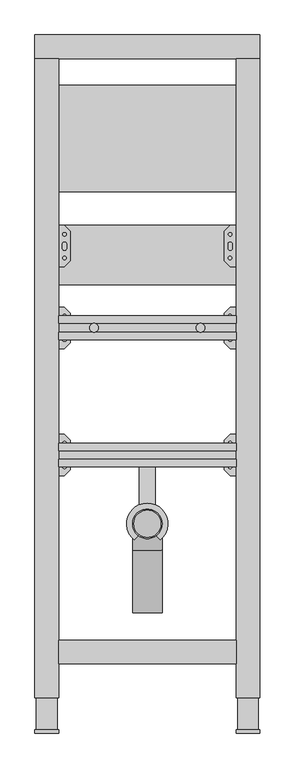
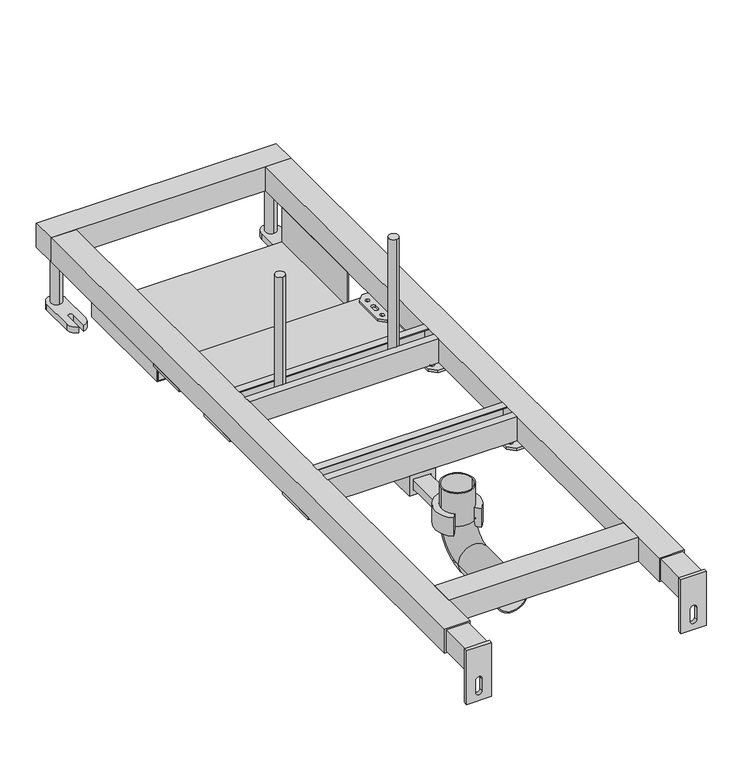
"""IFC4 building model written with IfcOpenShell, lengths in millimetres: sanitary terminal geometry, RSen_74_PF_FB_built-in element urinal_wisa : xs urinal_wisa_built-in element urinal."""

from ifc_helpers import new_model, si_unit, point, frame, frame_2d, origin, origin_with_axes, place, context, project, spatial, polyline, circle_curve, ellipse_curve, trimmed, segment, composite_curve, outline, extrude, source, transform, mapped, element, save
from ifc_brep_helpers import plane_surface, cylinder_surface, revolved_surface, advanced_brep


def sanitary_terminal_b9d32491(model_context):
    return source(origin(), model_context, "Body", "SolidModel", [
        advanced_brep(
        [(-25.0, 353.6133796, 135.0), (25.0, 353.6133796, 135.0), (-23.0, 353.6133796, 135.0), (23.0, 353.6133796, 135.0), (-25.0, 353.6133796, 80.0), (25.0, 353.6133796, 80.0), (25.0, 308.6133796, 35.0), (-25.0, 308.6133796, 35.0), (-25.0, 203.6133796, 35.0), (25.0, 203.6133796, 35.0), (-23.0, 203.6133796, 35.0), (23.0, 203.6133796, 35.0), (-23.0, 353.6133796, 80.0), (23.0, 353.6133796, 80.0), (23.0, 308.6133796, 35.0), (-23.0, 308.6133796, 35.0)],
        [
            (0, 1, circle_curve(frame((0.0, 353.6133796, 135.0), z_axis=(0.0, 0.0, 1.0), x_axis=(1.0, 0.0, 0.0)), 25.0)),
            (1, 0, circle_curve(frame((0.0, 353.6133796, 135.0), z_axis=(0.0, 0.0, 1.0), x_axis=(1.0, 0.0, 0.0)), 25.0)),
            (2, 3, circle_curve(frame((0.0, 353.6133796, 135.0), z_axis=(0.0, 0.0, -1.0), x_axis=(1.0, 0.0, 0.0)), 23.0)),
            (3, 2, circle_curve(frame((0.0, 353.6133796, 135.0), z_axis=(0.0, 0.0, -1.0), x_axis=(1.0, 0.0, 0.0)), 23.0)),
            (0, 4),
            (4, 5, circle_curve(frame((0.0, 353.6133796, 80.0), z_axis=(0.0, 0.0, 1.0), x_axis=(1.0, 0.0, 0.0)), 25.0)),
            (5, 1),
            (5, 4, circle_curve(frame((0.0, 353.6133796, 80.0), z_axis=(0.0, 0.0, 1.0), x_axis=(1.0, 0.0, 0.0)), 25.0)),
            (6, 5, circle_curve(frame((25.0, 308.6133796, 80.0), z_axis=(1.0, 0.0, 0.0), x_axis=(0.0, 1.0, 0.0)), 45.0)),
            (4, 7, circle_curve(frame((-25.0, 308.6133796, 80.0), z_axis=(-1.0, 0.0, 0.0), x_axis=(0.0, 1.0, 0.0)), 45.0)),
            (7, 6, circle_curve(frame((0.0, 308.6133796, 35.0), z_axis=(0.0, 1.0, 0.0), x_axis=(1.0, 0.0, 0.0)), 25.0)),
            (6, 7, circle_curve(frame((0.0, 308.6133796, 35.0), z_axis=(0.0, 1.0, 0.0), x_axis=(1.0, 0.0, 0.0)), 25.0)),
            (8, 9, circle_curve(frame((0.0, 203.6133796, 35.0), z_axis=(0.0, -1.0, 0.0), x_axis=(1.0, 0.0, 0.0)), 25.0)),
            (9, 8, circle_curve(frame((0.0, 203.6133796, 35.0), z_axis=(0.0, -1.0, 0.0), x_axis=(1.0, 0.0, 0.0)), 25.0)),
            (10, 11, circle_curve(frame((0.0, 203.6133796, 35.0), z_axis=(0.0, 1.0, 0.0), x_axis=(1.0, 0.0, 0.0)), 23.0)),
            (11, 10, circle_curve(frame((0.0, 203.6133796, 35.0), z_axis=(0.0, 1.0, 0.0), x_axis=(1.0, 0.0, 0.0)), 23.0)),
            (7, 8),
            (9, 6),
            (2, 12),
            (12, 13, circle_curve(frame((0.0, 353.6133796, 80.0), z_axis=(0.0, 0.0, -1.0), x_axis=(1.0, 0.0, 0.0)), 23.0)),
            (13, 3),
            (13, 12, circle_curve(frame((0.0, 353.6133796, 80.0), z_axis=(0.0, 0.0, -1.0), x_axis=(1.0, 0.0, 0.0)), 23.0)),
            (14, 13, circle_curve(frame((23.0, 308.6133796, 80.0), z_axis=(1.0, 0.0, 0.0), x_axis=(0.0, 1.0, 0.0)), 45.0)),
            (12, 15, circle_curve(frame((-23.0, 308.6133796, 80.0), z_axis=(-1.0, 0.0, 0.0), x_axis=(0.0, 1.0, 0.0)), 45.0)),
            (15, 14, circle_curve(frame((0.0, 308.6133796, 35.0), z_axis=(0.0, -1.0, 0.0), x_axis=(1.0, 0.0, 0.0)), 23.0)),
            (14, 15, circle_curve(frame((0.0, 308.6133796, 35.0), z_axis=(0.0, -1.0, 0.0), x_axis=(1.0, 0.0, 0.0)), 23.0)),
            (15, 10),
            (11, 14),
        ],
        [
            plane_surface(frame((0.0, 353.6133796, 135.0), z_axis=(0.0, 0.0, 1.0), x_axis=(1.0, 0.0, 0.0))),
            cylinder_surface(frame((0.0, 353.6133796, 135.0), z_axis=(0.0, 0.0, 1.0), x_axis=(1.0, 0.0, 0.0)), 25.0),
            revolved_surface(trimmed(ellipse_curve(frame((0.0, 353.6133796, 80.0), z_axis=(0.0, 0.0, 1.0), x_axis=(1.0, 0.0, 0.0)), 25.0, 25.0), [point((-25.0, 353.6133796, 80.0))], [point((25.0, 353.6133796, 80.0))], True, "CARTESIAN"), (0.0, 308.6133796, 80.0), (-1.0, 0.0, 0.0)),
            revolved_surface(trimmed(ellipse_curve(frame((0.0, 353.6133796, 80.0), z_axis=(0.0, 0.0, 1.0), x_axis=(1.0, 0.0, 0.0)), 25.0, 25.0), [point((25.0, 353.6133796, 80.0))], [point((-25.0, 353.6133796, 80.0))], True, "CARTESIAN"), (0.0, 308.6133796, 80.0), (-1.0, 0.0, 0.0)),
            plane_surface(frame((0.0, 203.6133796, 35.0), z_axis=(0.0, -1.0, 0.0), x_axis=(1.0, 0.0, 0.0))),
            cylinder_surface(frame((0.0, 308.6133796, 35.0), z_axis=(0.0, 1.0, 0.0), x_axis=(1.0, 0.0, 0.0)), 25.0),
            revolved_surface(polyline([(23.0, 353.6133796, 80.0), (23.0, 353.6133796, 135.0)]), (0.0, 353.6133796, 135.0), (0.0, 0.0, -1.0)),
            revolved_surface(trimmed(ellipse_curve(frame((0.0, 353.6133796, 80.0), z_axis=(0.0, 0.0, -1.0), x_axis=(1.0, 0.0, 0.0)), 23.0, 23.0), [point((-23.0, 353.6133796, 80.0))], [point((23.0, 353.6133796, 80.0))], True, "CARTESIAN"), (0.0, 308.6133796, 80.0), (-1.0, 0.0, 0.0)),
            revolved_surface(trimmed(ellipse_curve(frame((0.0, 353.6133796, 80.0), z_axis=(0.0, 0.0, -1.0), x_axis=(1.0, 0.0, 0.0)), 23.0, 23.0), [point((23.0, 353.6133796, 80.0))], [point((-23.0, 353.6133796, 80.0))], True, "CARTESIAN"), (0.0, 308.6133796, 80.0), (-1.0, 0.0, 0.0)),
            revolved_surface(polyline([(23.0, 203.6133796, 35.0), (23.0, 308.6133796, 35.0)]), (0.0, 308.6133796, 35.0), (0.0, -1.0, 0.0)),
        ],
        [
            (0, [[1, 2], [3, 4]]),
            (1, [[-1, 5, 6, 7]]),
            (1, [[-2, -7, 8, -5]]),
            (2, [[9, -6, 10, 11]]),
            (3, [[-10, -8, -9, 12]]),
            (4, [[13, 14], [15, 16]]),
            (5, [[-11, 17, -14, 18]]),
            (5, [[-12, -18, -13, -17]]),
            (6, [[-3, 19, 20, 21]]),
            (6, [[-4, -21, 22, -19]]),
            (7, [[23, -20, 24, 25]]),
            (8, [[-24, -22, -23, 26]]),
            (9, [[-25, 27, -16, 28]]),
            (9, [[-26, -28, -15, -27]]),
        ],
    ),
        extrude(outline(composite_curve([segment(trimmed(circle_curve(frame_2d((-0.1785173, 353.614017)), 25.0), [point((14.8942159, 333.6687741))], [point((-15.2512505, 333.6687741))], True, "CARTESIAN"), True, "CONTINUOUS"), segment(polyline([(-15.2512505, 333.6687741), (-22.3707959, 326.5492287)]), True, "CONTINUOUS"), segment(trimmed(circle_curve(frame_2d((-0.1785173, 353.614017)), 35.0), [point((-22.3707959, 326.5492287))], [point((-0.1785173, 388.614017))], False, "CARTESIAN"), True, "CONTINUOUS"), segment(trimmed(circle_curve(frame_2d((-0.1785173, 353.614017)), 35.0), [point((-0.1785173, 388.614017))], [point((22.0137614, 326.5492287))], False, "CARTESIAN"), True, "CONTINUOUS"), segment(polyline([(22.0137614, 326.5492287), (14.8942159, 333.6687741)]), True, "CONTINUOUS")], self_intersect=False)), frame((0.0, 0.0, 70.0), z_axis=(0.0, 0.0, 1.0), x_axis=(1.0, 0.0, 0.0)), (0.0, 0.0, 1.0), 31.0),
        extrude(outline(polyline([(-13.9285173, 490.0), (13.5714827, 490.0), (13.5714827, 385.8), (-13.9285173, 385.8), (-13.9285173, 490.0)])), frame((0.0, 0.0, 71.5), z_axis=(0.0, 0.0, 1.0), x_axis=(1.0, 0.0, 0.0)), (0.0, 0.0, 1.0), 13.5),
        extrude(outline(polyline([(95.0, 20.75), (95.0, -20.75), (61.5, -20.75), (61.5, 20.75), (95.0, 20.75)]), holes=[polyline([(87.5, 13.5714827), (69.0, 13.5714827), (69.0, -13.9285173), (87.5, -13.9285173), (87.5, 13.5714827)])]), frame((0.0, 450.0, 0.0), z_axis=(0.0, 1.0, 0.0), x_axis=(0.0, 0.0, 1.0)), (0.0, 0.0, 1.0), 40.0),
        extrude(outline(composite_curve([segment(trimmed(circle_curve(frame_2d((-90.0, 685.0)), 7.5154833), [point((-90.0, 692.5154833))], [point((-90.0, 677.4845167))], False, "CARTESIAN"), True, "CONTINUOUS"), segment(trimmed(circle_curve(frame_2d((-90.0, 685.0)), 7.5154833), [point((-90.0, 677.4845167))], [point((-90.0, 692.5154833))], False, "CARTESIAN"), True, "CONTINUOUS")], self_intersect=False)), frame((0.0, 0.0, 115.0), z_axis=(0.0, 0.0, 1.0), x_axis=(1.0, 0.0, 0.0)), (0.0, 0.0, 1.0), 200.0),
        extrude(outline(composite_curve([segment(trimmed(circle_curve(frame_2d((90.0, 685.0)), 7.5154833), [point((90.0, 692.5154833))], [point((90.0, 677.4845167))], False, "CARTESIAN"), True, "CONTINUOUS"), segment(trimmed(circle_curve(frame_2d((90.0, 685.0)), 7.5154833), [point((90.0, 677.4845167))], [point((90.0, 692.5154833))], False, "CARTESIAN"), True, "CONTINUOUS")], self_intersect=False)), frame((0.0, 0.0, 115.0), z_axis=(0.0, 0.0, 1.0), x_axis=(1.0, 0.0, 0.0)), (0.0, 0.0, 1.0), 200.0),
        extrude(outline(polyline([(150.0, 1095.0), (150.0, 915.0), (-150.0, 915.0), (-150.0, 1095.0), (150.0, 1095.0)])), frame((0.0, 0.0, 18.5), z_axis=(0.0, 0.0, 1.0), x_axis=(1.0, 0.0, 0.0)), (0.0, 0.0, 1.0), 18.0),
        extrude(outline(polyline([(95.0, -185.0), (93.5, -185.0), (93.5, -151.5), (17.0, -151.5), (17.0, -123.5), (18.5, -123.5), (18.5, -150.0), (95.0, -150.0), (95.0, -185.0)])), frame((0.0, 915.0, 0.0), z_axis=(0.0, 1.0, 0.0), x_axis=(0.0, 0.0, 1.0)), (0.0, 0.0, 1.0), 180.0),
        extrude(outline(polyline([(95.0, 185.0), (95.0, 150.0), (18.5, 150.0), (18.5, 123.5), (17.0, 123.5), (17.0, 151.5), (93.5, 151.5), (93.5, 185.0), (95.0, 185.0)])), frame((0.0, 915.0, 0.0), z_axis=(0.0, 1.0, 0.0), x_axis=(0.0, 0.0, 1.0)), (0.0, 0.0, 1.0), 180.0),
        extrude(outline(polyline([(150.0, 858.0), (150.0, 758.0), (-150.0, 758.0), (-150.0, 858.0), (150.0, 858.0)])), frame((0.0, 0.0, 73.0), z_axis=(0.0, 0.0, 1.0), x_axis=(1.0, 0.0, 0.0)), (0.0, 0.0, 1.0), 18.0),
        extrude(outline(polyline([(665.0, 135.0), (677.4845167, 135.0), (677.4845167, 133.5), (666.5, 133.5), (666.5, 96.5), (703.5, 96.5), (703.5, 133.5), (692.5154833, 133.5), (692.5154833, 135.0), (705.0, 135.0), (705.0, 95.0), (665.0, 95.0), (665.0, 135.0)])), frame((-150.0, 0.0, 0.0), z_axis=(1.0, 0.0, 0.0), x_axis=(0.0, 1.0, 0.0)), (0.0, 0.0, 1.0), 300.0),
        extrude(outline(polyline([(450.0, 135.0), (462.4845167, 135.0), (462.4845167, 133.5), (451.5, 133.5), (451.5, 96.5), (488.5, 96.5), (488.5, 133.5), (477.5154833, 133.5), (477.5154833, 135.0), (490.0, 135.0), (490.0, 95.0), (450.0, 95.0), (450.0, 135.0)])), frame((-150.0, 0.0, 0.0), z_axis=(1.0, 0.0, 0.0), x_axis=(0.0, 1.0, 0.0)), (0.0, 0.0, 1.0), 300.0),
        extrude(outline(polyline([(140.0, 788.0), (130.0, 798.0), (130.0, 848.0), (140.0, 858.0), (190.0, 858.0), (190.0, 788.0), (140.0, 788.0)]), holes=[composite_curve([segment(trimmed(circle_curve(frame_2d((175.0, 823.0)), 4.5), [point((175.0, 818.5))], [point((175.0, 827.5))], True, "CARTESIAN"), True, "CONTINUOUS"), segment(trimmed(circle_curve(frame_2d((175.0, 823.0)), 4.5), [point((175.0, 827.5))], [point((175.0, 818.5))], True, "CARTESIAN"), True, "CONTINUOUS")], self_intersect=False), composite_curve([segment(trimmed(circle_curve(frame_2d((175.0, 843.0)), 4.5), [point((175.0, 838.5))], [point((175.0, 847.5))], True, "CARTESIAN"), True, "CONTINUOUS"), segment(trimmed(circle_curve(frame_2d((175.0, 843.0)), 4.5), [point((175.0, 847.5))], [point((175.0, 838.5))], True, "CARTESIAN"), True, "CONTINUOUS")], self_intersect=False), composite_curve([segment(trimmed(circle_curve(frame_2d((175.0, 803.0)), 4.5), [point((175.0, 798.5))], [point((175.0, 807.5))], True, "CARTESIAN"), True, "CONTINUOUS"), segment(trimmed(circle_curve(frame_2d((175.0, 803.0)), 4.5), [point((175.0, 807.5))], [point((175.0, 798.5))], True, "CARTESIAN"), True, "CONTINUOUS")], self_intersect=False), composite_curve([segment(trimmed(circle_curve(frame_2d((140.0, 843.0)), 2.9795218), [point((140.0, 840.0204782))], [point((140.0, 845.9795218))], True, "CARTESIAN"), True, "CONTINUOUS"), segment(trimmed(circle_curve(frame_2d((140.0, 843.0)), 2.9795218), [point((140.0, 845.9795218))], [point((140.0, 840.0204782))], True, "CARTESIAN"), True, "CONTINUOUS")], self_intersect=False), composite_curve([segment(trimmed(circle_curve(frame_2d((140.0, 803.0)), 2.9795218), [point((140.0, 800.0204782))], [point((140.0, 805.9795218))], True, "CARTESIAN"), True, "CONTINUOUS"), segment(trimmed(circle_curve(frame_2d((140.0, 803.0)), 2.9795218), [point((140.0, 805.9795218))], [point((140.0, 800.0204782))], True, "CARTESIAN"), True, "CONTINUOUS")], self_intersect=False), composite_curve([segment(trimmed(circle_curve(frame_2d((140.0, 826.5)), 3.5), [point((143.5, 826.5))], [point((136.5, 826.5))], True, "CARTESIAN"), True, "CONTINUOUS"), segment(polyline([(136.5, 826.5), (136.5, 819.5)]), True, "CONTINUOUS"), segment(trimmed(circle_curve(frame_2d((140.0, 819.5)), 3.5), [point((136.5, 819.5))], [point((143.5, 819.5))], True, "CARTESIAN"), True, "CONTINUOUS"), segment(polyline([(143.5, 819.5), (143.5, 826.5)]), True, "CONTINUOUS")], self_intersect=False)]), frame((0.0, 0.0, 91.0), z_axis=(0.0, 0.0, 1.0), x_axis=(1.0, 0.0, 0.0)), (0.0, 0.0, 1.0), 4.0),
        extrude(outline(polyline([(-140.0, 788.0), (-190.0, 788.0), (-190.0, 858.0), (-140.0, 858.0), (-130.0, 848.0), (-130.0, 798.0), (-140.0, 788.0)]), holes=[composite_curve([segment(trimmed(circle_curve(frame_2d((-175.0, 823.0)), 4.5), [point((-175.0, 818.5))], [point((-175.0, 827.5))], True, "CARTESIAN"), True, "CONTINUOUS"), segment(trimmed(circle_curve(frame_2d((-175.0, 823.0)), 4.5), [point((-175.0, 827.5))], [point((-175.0, 818.5))], True, "CARTESIAN"), True, "CONTINUOUS")], self_intersect=False), composite_curve([segment(trimmed(circle_curve(frame_2d((-175.0, 843.0)), 4.5), [point((-175.0, 838.5))], [point((-175.0, 847.5))], True, "CARTESIAN"), True, "CONTINUOUS"), segment(trimmed(circle_curve(frame_2d((-175.0, 843.0)), 4.5), [point((-175.0, 847.5))], [point((-175.0, 838.5))], True, "CARTESIAN"), True, "CONTINUOUS")], self_intersect=False), composite_curve([segment(trimmed(circle_curve(frame_2d((-175.0, 803.0)), 4.5), [point((-175.0, 798.5))], [point((-175.0, 807.5))], True, "CARTESIAN"), True, "CONTINUOUS"), segment(trimmed(circle_curve(frame_2d((-175.0, 803.0)), 4.5), [point((-175.0, 807.5))], [point((-175.0, 798.5))], True, "CARTESIAN"), True, "CONTINUOUS")], self_intersect=False), composite_curve([segment(trimmed(circle_curve(frame_2d((-140.0, 843.0)), 2.9795218), [point((-140.0, 840.0204782))], [point((-140.0, 845.9795218))], True, "CARTESIAN"), True, "CONTINUOUS"), segment(trimmed(circle_curve(frame_2d((-140.0, 843.0)), 2.9795218), [point((-140.0, 845.9795218))], [point((-140.0, 840.0204782))], True, "CARTESIAN"), True, "CONTINUOUS")], self_intersect=False), composite_curve([segment(trimmed(circle_curve(frame_2d((-140.0, 803.0)), 2.9795218), [point((-140.0, 800.0204782))], [point((-140.0, 805.9795218))], True, "CARTESIAN"), True, "CONTINUOUS"), segment(trimmed(circle_curve(frame_2d((-140.0, 803.0)), 2.9795218), [point((-140.0, 805.9795218))], [point((-140.0, 800.0204782))], True, "CARTESIAN"), True, "CONTINUOUS")], self_intersect=False), composite_curve([segment(polyline([(-143.5, 826.5), (-143.5, 819.5)]), True, "CONTINUOUS"), segment(trimmed(circle_curve(frame_2d((-140.0, 819.5)), 3.5), [point((-143.5, 819.5))], [point((-136.5, 819.5))], True, "CARTESIAN"), True, "CONTINUOUS"), segment(polyline([(-136.5, 819.5), (-136.5, 826.5)]), True, "CONTINUOUS"), segment(trimmed(circle_curve(frame_2d((-140.0, 826.5)), 3.5), [point((-136.5, 826.5))], [point((-143.5, 826.5))], True, "CARTESIAN"), True, "CONTINUOUS")], self_intersect=False)]), frame((0.0, 0.0, 91.0), z_axis=(0.0, 0.0, 1.0), x_axis=(1.0, 0.0, 0.0)), (0.0, 0.0, 1.0), 4.0),
        extrude(outline(polyline([(140.0, 650.0), (130.0, 660.0), (130.0, 710.0), (140.0, 720.0), (190.0, 720.0), (190.0, 650.0), (140.0, 650.0)]), holes=[composite_curve([segment(trimmed(circle_curve(frame_2d((175.0, 685.0)), 4.5), [point((175.0, 680.5))], [point((175.0, 689.5))], True, "CARTESIAN"), True, "CONTINUOUS"), segment(trimmed(circle_curve(frame_2d((175.0, 685.0)), 4.5), [point((175.0, 689.5))], [point((175.0, 680.5))], True, "CARTESIAN"), True, "CONTINUOUS")], self_intersect=False), composite_curve([segment(trimmed(circle_curve(frame_2d((175.0, 705.0)), 4.5), [point((175.0, 700.5))], [point((175.0, 709.5))], True, "CARTESIAN"), True, "CONTINUOUS"), segment(trimmed(circle_curve(frame_2d((175.0, 705.0)), 4.5), [point((175.0, 709.5))], [point((175.0, 700.5))], True, "CARTESIAN"), True, "CONTINUOUS")], self_intersect=False), composite_curve([segment(trimmed(circle_curve(frame_2d((175.0, 665.0)), 4.5), [point((175.0, 660.5))], [point((175.0, 669.5))], True, "CARTESIAN"), True, "CONTINUOUS"), segment(trimmed(circle_curve(frame_2d((175.0, 665.0)), 4.5), [point((175.0, 669.5))], [point((175.0, 660.5))], True, "CARTESIAN"), True, "CONTINUOUS")], self_intersect=False), composite_curve([segment(trimmed(circle_curve(frame_2d((140.0, 705.0)), 2.9795218), [point((140.0, 702.0204782))], [point((140.0, 707.9795218))], True, "CARTESIAN"), True, "CONTINUOUS"), segment(trimmed(circle_curve(frame_2d((140.0, 705.0)), 2.9795218), [point((140.0, 707.9795218))], [point((140.0, 702.0204782))], True, "CARTESIAN"), True, "CONTINUOUS")], self_intersect=False), composite_curve([segment(trimmed(circle_curve(frame_2d((140.0, 665.0)), 2.9795218), [point((140.0, 662.0204782))], [point((140.0, 667.9795218))], True, "CARTESIAN"), True, "CONTINUOUS"), segment(trimmed(circle_curve(frame_2d((140.0, 665.0)), 2.9795218), [point((140.0, 667.9795218))], [point((140.0, 662.0204782))], True, "CARTESIAN"), True, "CONTINUOUS")], self_intersect=False), composite_curve([segment(trimmed(circle_curve(frame_2d((140.0, 688.5)), 3.5), [point((143.5, 688.5))], [point((136.5, 688.5))], True, "CARTESIAN"), True, "CONTINUOUS"), segment(polyline([(136.5, 688.5), (136.5, 681.5)]), True, "CONTINUOUS"), segment(trimmed(circle_curve(frame_2d((140.0, 681.5)), 3.5), [point((136.5, 681.5))], [point((143.5, 681.5))], True, "CARTESIAN"), True, "CONTINUOUS"), segment(polyline([(143.5, 681.5), (143.5, 688.5)]), True, "CONTINUOUS")], self_intersect=False)]), frame((0.0, 0.0, 91.0), z_axis=(0.0, 0.0, 1.0), x_axis=(1.0, 0.0, 0.0)), (0.0, 0.0, 1.0), 4.0),
        extrude(outline(polyline([(-140.0, 650.0), (-190.0, 650.0), (-190.0, 720.0), (-140.0, 720.0), (-130.0, 710.0), (-130.0, 660.0), (-140.0, 650.0)]), holes=[composite_curve([segment(trimmed(circle_curve(frame_2d((-175.0, 685.0)), 4.5), [point((-175.0, 680.5))], [point((-175.0, 689.5))], True, "CARTESIAN"), True, "CONTINUOUS"), segment(trimmed(circle_curve(frame_2d((-175.0, 685.0)), 4.5), [point((-175.0, 689.5))], [point((-175.0, 680.5))], True, "CARTESIAN"), True, "CONTINUOUS")], self_intersect=False), composite_curve([segment(trimmed(circle_curve(frame_2d((-175.0, 705.0)), 4.5), [point((-175.0, 700.5))], [point((-175.0, 709.5))], True, "CARTESIAN"), True, "CONTINUOUS"), segment(trimmed(circle_curve(frame_2d((-175.0, 705.0)), 4.5), [point((-175.0, 709.5))], [point((-175.0, 700.5))], True, "CARTESIAN"), True, "CONTINUOUS")], self_intersect=False), composite_curve([segment(trimmed(circle_curve(frame_2d((-175.0, 665.0)), 4.5), [point((-175.0, 660.5))], [point((-175.0, 669.5))], True, "CARTESIAN"), True, "CONTINUOUS"), segment(trimmed(circle_curve(frame_2d((-175.0, 665.0)), 4.5), [point((-175.0, 669.5))], [point((-175.0, 660.5))], True, "CARTESIAN"), True, "CONTINUOUS")], self_intersect=False), composite_curve([segment(trimmed(circle_curve(frame_2d((-140.0, 705.0)), 2.9795218), [point((-140.0, 702.0204782))], [point((-140.0, 707.9795218))], True, "CARTESIAN"), True, "CONTINUOUS"), segment(trimmed(circle_curve(frame_2d((-140.0, 705.0)), 2.9795218), [point((-140.0, 707.9795218))], [point((-140.0, 702.0204782))], True, "CARTESIAN"), True, "CONTINUOUS")], self_intersect=False), composite_curve([segment(trimmed(circle_curve(frame_2d((-140.0, 665.0)), 2.9795218), [point((-140.0, 662.0204782))], [point((-140.0, 667.9795218))], True, "CARTESIAN"), True, "CONTINUOUS"), segment(trimmed(circle_curve(frame_2d((-140.0, 665.0)), 2.9795218), [point((-140.0, 667.9795218))], [point((-140.0, 662.0204782))], True, "CARTESIAN"), True, "CONTINUOUS")], self_intersect=False), composite_curve([segment(polyline([(-143.5, 688.5), (-143.5, 681.5)]), True, "CONTINUOUS"), segment(trimmed(circle_curve(frame_2d((-140.0, 681.5)), 3.5), [point((-143.5, 681.5))], [point((-136.5, 681.5))], True, "CARTESIAN"), True, "CONTINUOUS"), segment(polyline([(-136.5, 681.5), (-136.5, 688.5)]), True, "CONTINUOUS"), segment(trimmed(circle_curve(frame_2d((-140.0, 688.5)), 3.5), [point((-136.5, 688.5))], [point((-143.5, 688.5))], True, "CARTESIAN"), True, "CONTINUOUS")], self_intersect=False)]), frame((0.0, 0.0, 91.0), z_axis=(0.0, 0.0, 1.0), x_axis=(1.0, 0.0, 0.0)), (0.0, 0.0, 1.0), 4.0),
        extrude(outline(polyline([(140.0, 435.0), (130.0, 445.0), (130.0, 495.0), (140.0, 505.0), (190.0, 505.0), (190.0, 435.0), (140.0, 435.0)]), holes=[composite_curve([segment(trimmed(circle_curve(frame_2d((175.0, 470.0)), 4.5), [point((175.0, 465.5))], [point((175.0, 474.5))], True, "CARTESIAN"), True, "CONTINUOUS"), segment(trimmed(circle_curve(frame_2d((175.0, 470.0)), 4.5), [point((175.0, 474.5))], [point((175.0, 465.5))], True, "CARTESIAN"), True, "CONTINUOUS")], self_intersect=False), composite_curve([segment(trimmed(circle_curve(frame_2d((175.0, 490.0)), 4.5), [point((175.0, 485.5))], [point((175.0, 494.5))], True, "CARTESIAN"), True, "CONTINUOUS"), segment(trimmed(circle_curve(frame_2d((175.0, 490.0)), 4.5), [point((175.0, 494.5))], [point((175.0, 485.5))], True, "CARTESIAN"), True, "CONTINUOUS")], self_intersect=False), composite_curve([segment(trimmed(circle_curve(frame_2d((175.0, 450.0)), 4.5), [point((175.0, 445.5))], [point((175.0, 454.5))], True, "CARTESIAN"), True, "CONTINUOUS"), segment(trimmed(circle_curve(frame_2d((175.0, 450.0)), 4.5), [point((175.0, 454.5))], [point((175.0, 445.5))], True, "CARTESIAN"), True, "CONTINUOUS")], self_intersect=False), composite_curve([segment(trimmed(circle_curve(frame_2d((140.0, 490.0)), 2.9795218), [point((140.0, 487.0204782))], [point((140.0, 492.9795218))], True, "CARTESIAN"), True, "CONTINUOUS"), segment(trimmed(circle_curve(frame_2d((140.0, 490.0)), 2.9795218), [point((140.0, 492.9795218))], [point((140.0, 487.0204782))], True, "CARTESIAN"), True, "CONTINUOUS")], self_intersect=False), composite_curve([segment(trimmed(circle_curve(frame_2d((140.0, 450.0)), 2.9795218), [point((140.0, 447.0204782))], [point((140.0, 452.9795218))], True, "CARTESIAN"), True, "CONTINUOUS"), segment(trimmed(circle_curve(frame_2d((140.0, 450.0)), 2.9795218), [point((140.0, 452.9795218))], [point((140.0, 447.0204782))], True, "CARTESIAN"), True, "CONTINUOUS")], self_intersect=False), composite_curve([segment(trimmed(circle_curve(frame_2d((140.0, 473.5)), 3.5), [point((143.5, 473.5))], [point((136.5, 473.5))], True, "CARTESIAN"), True, "CONTINUOUS"), segment(polyline([(136.5, 473.5), (136.5, 466.5)]), True, "CONTINUOUS"), segment(trimmed(circle_curve(frame_2d((140.0, 466.5)), 3.5), [point((136.5, 466.5))], [point((143.5, 466.5))], True, "CARTESIAN"), True, "CONTINUOUS"), segment(polyline([(143.5, 466.5), (143.5, 473.5)]), True, "CONTINUOUS")], self_intersect=False)]), frame((0.0, 0.0, 91.0), z_axis=(0.0, 0.0, 1.0), x_axis=(1.0, 0.0, 0.0)), (0.0, 0.0, 1.0), 4.0),
        extrude(outline(polyline([(-140.0, 435.0), (-190.0, 435.0), (-190.0, 505.0), (-140.0, 505.0), (-130.0, 495.0), (-130.0, 445.0), (-140.0, 435.0)]), holes=[composite_curve([segment(trimmed(circle_curve(frame_2d((-175.0, 470.0)), 4.5), [point((-175.0, 465.5))], [point((-175.0, 474.5))], True, "CARTESIAN"), True, "CONTINUOUS"), segment(trimmed(circle_curve(frame_2d((-175.0, 470.0)), 4.5), [point((-175.0, 474.5))], [point((-175.0, 465.5))], True, "CARTESIAN"), True, "CONTINUOUS")], self_intersect=False), composite_curve([segment(trimmed(circle_curve(frame_2d((-175.0, 490.0)), 4.5), [point((-175.0, 485.5))], [point((-175.0, 494.5))], True, "CARTESIAN"), True, "CONTINUOUS"), segment(trimmed(circle_curve(frame_2d((-175.0, 490.0)), 4.5), [point((-175.0, 494.5))], [point((-175.0, 485.5))], True, "CARTESIAN"), True, "CONTINUOUS")], self_intersect=False), composite_curve([segment(trimmed(circle_curve(frame_2d((-175.0, 450.0)), 4.5), [point((-175.0, 445.5))], [point((-175.0, 454.5))], True, "CARTESIAN"), True, "CONTINUOUS"), segment(trimmed(circle_curve(frame_2d((-175.0, 450.0)), 4.5), [point((-175.0, 454.5))], [point((-175.0, 445.5))], True, "CARTESIAN"), True, "CONTINUOUS")], self_intersect=False), composite_curve([segment(trimmed(circle_curve(frame_2d((-140.0, 490.0)), 2.9795218), [point((-140.0, 487.0204782))], [point((-140.0, 492.9795218))], True, "CARTESIAN"), True, "CONTINUOUS"), segment(trimmed(circle_curve(frame_2d((-140.0, 490.0)), 2.9795218), [point((-140.0, 492.9795218))], [point((-140.0, 487.0204782))], True, "CARTESIAN"), True, "CONTINUOUS")], self_intersect=False), composite_curve([segment(trimmed(circle_curve(frame_2d((-140.0, 450.0)), 2.9795218), [point((-140.0, 447.0204782))], [point((-140.0, 452.9795218))], True, "CARTESIAN"), True, "CONTINUOUS"), segment(trimmed(circle_curve(frame_2d((-140.0, 450.0)), 2.9795218), [point((-140.0, 452.9795218))], [point((-140.0, 447.0204782))], True, "CARTESIAN"), True, "CONTINUOUS")], self_intersect=False), composite_curve([segment(polyline([(-143.5, 473.5), (-143.5, 466.5)]), True, "CONTINUOUS"), segment(trimmed(circle_curve(frame_2d((-140.0, 466.5)), 3.5), [point((-143.5, 466.5))], [point((-136.5, 466.5))], True, "CARTESIAN"), True, "CONTINUOUS"), segment(polyline([(-136.5, 466.5), (-136.5, 473.5)]), True, "CONTINUOUS"), segment(trimmed(circle_curve(frame_2d((-140.0, 473.5)), 3.5), [point((-136.5, 473.5))], [point((-143.5, 473.5))], True, "CARTESIAN"), True, "CONTINUOUS")], self_intersect=False)]), frame((0.0, 0.0, 91.0), z_axis=(0.0, 0.0, 1.0), x_axis=(1.0, 0.0, 0.0)), (0.0, 0.0, 1.0), 4.0),
        extrude(outline(composite_curve([segment(trimmed(circle_curve(frame_2d((-170.0, 1160.0)), 8.75), [point((-170.0, 1151.25))], [point((-170.0, 1168.75))], False, "CARTESIAN"), True, "CONTINUOUS"), segment(trimmed(circle_curve(frame_2d((-170.0, 1160.0)), 8.75), [point((-170.0, 1168.75))], [point((-170.0, 1151.25))], False, "CARTESIAN"), True, "CONTINUOUS")], self_intersect=False)), frame((0.0, 0.0, 10.0), z_axis=(0.0, 0.0, 1.0), x_axis=(1.0, 0.0, 0.0)), (0.0, 0.0, 1.0), 85.0),
        extrude(outline(composite_curve([segment(trimmed(circle_curve(frame_2d((170.0, 1160.0)), 8.75), [point((170.0, 1151.25))], [point((170.0, 1168.75))], False, "CARTESIAN"), True, "CONTINUOUS"), segment(trimmed(circle_curve(frame_2d((170.0, 1160.0)), 8.75), [point((170.0, 1168.75))], [point((170.0, 1151.25))], False, "CARTESIAN"), True, "CONTINUOUS")], self_intersect=False)), frame((0.0, 0.0, 10.0), z_axis=(0.0, 0.0, 1.0), x_axis=(1.0, 0.0, 0.0)), (0.0, 0.0, 1.0), 85.0),
        extrude(outline(composite_curve([segment(trimmed(circle_curve(frame_2d((-170.0, 1160.0)), 15.0), [point((-185.0, 1160.0))], [point((-155.0, 1160.0))], False, "CARTESIAN"), True, "CONTINUOUS"), segment(polyline([(-155.0, 1160.0), (-155.0, 1106.0)]), True, "CONTINUOUS"), segment(trimmed(circle_curve(frame_2d((-170.0, 1106.0)), 15.0), [point((-155.0, 1106.0))], [point((-166.0, 1091.5431677))], False, "CARTESIAN"), True, "CONTINUOUS"), segment(polyline([(-166.0, 1091.5431677), (-166.0, 1120.4568323)]), True, "CONTINUOUS"), segment(trimmed(circle_curve(frame_2d((-170.0, 1120.4568323)), 4.0), [point((-166.0, 1120.4568323))], [point((-174.0, 1120.4568323))], True, "CARTESIAN"), True, "CONTINUOUS"), segment(polyline([(-174.0, 1120.4568323), (-174.0, 1091.5431677)]), True, "CONTINUOUS"), segment(trimmed(circle_curve(frame_2d((-170.0, 1106.0)), 15.0), [point((-174.0, 1091.5431677))], [point((-185.0, 1106.0))], False, "CARTESIAN"), True, "CONTINUOUS"), segment(polyline([(-185.0, 1106.0), (-185.0, 1160.0)]), True, "CONTINUOUS")], self_intersect=False)), origin_with_axes(), (0.0, 0.0, 1.0), 10.0),
        extrude(outline(composite_curve([segment(polyline([(185.0, 1160.0), (185.0, 1106.0)]), True, "CONTINUOUS"), segment(trimmed(circle_curve(frame_2d((170.0, 1106.0)), 15.0), [point((185.0, 1106.0))], [point((174.0, 1091.5431677))], False, "CARTESIAN"), True, "CONTINUOUS"), segment(polyline([(174.0, 1091.5431677), (174.0, 1120.4568323)]), True, "CONTINUOUS"), segment(trimmed(circle_curve(frame_2d((170.0, 1120.4568323)), 4.0), [point((174.0, 1120.4568323))], [point((166.0, 1120.4568323))], True, "CARTESIAN"), True, "CONTINUOUS"), segment(polyline([(166.0, 1120.4568323), (166.0, 1091.5431677)]), True, "CONTINUOUS"), segment(trimmed(circle_curve(frame_2d((170.0, 1106.0)), 15.0), [point((166.0, 1091.5431677))], [point((155.0, 1106.0))], False, "CARTESIAN"), True, "CONTINUOUS"), segment(polyline([(155.0, 1106.0), (155.0, 1160.0)]), True, "CONTINUOUS"), segment(trimmed(circle_curve(frame_2d((170.0, 1160.0)), 15.0), [point((155.0, 1160.0))], [point((185.0, 1160.0))], False, "CARTESIAN"), True, "CONTINUOUS")], self_intersect=False)), origin_with_axes(), (0.0, 0.0, 1.0), 10.0),
        extrude(outline(polyline([(-187.5, 549.0), (-152.5, 549.0), (-152.5, 6.0), (-187.5, 6.0), (-187.5, 549.0)])), frame((0.0, 0.0, 97.5), z_axis=(0.0, 0.0, 1.0), x_axis=(1.0, 0.0, 0.0)), (0.0, 0.0, 1.0), 35.0),
        extrude(outline(polyline([(152.4841074, 549.0), (187.4841074, 549.0), (187.4841074, 6.0), (152.4841074, 6.0), (152.4841074, 549.0)])), frame((0.0, 0.0, 97.5), z_axis=(0.0, 0.0, 1.0), x_axis=(1.0, 0.0, 0.0)), (0.0, 0.0, 1.0), 35.0),
        extrude(outline(polyline([(135.0, 190.0), (135.0, 150.0), (45.0, 150.0), (45.0, 190.0), (135.0, 190.0)]), holes=[composite_curve([segment(trimmed(circle_curve(frame_2d((80.0, 170.0)), 5.0), [point((80.0, 165.0))], [point((80.0, 175.0))], True, "CARTESIAN"), True, "CONTINUOUS"), segment(polyline([(80.0, 175.0), (60.0, 175.0)]), True, "CONTINUOUS"), segment(trimmed(circle_curve(frame_2d((60.0, 170.0)), 5.0), [point((60.0, 175.0))], [point((60.0, 165.0))], True, "CARTESIAN"), True, "CONTINUOUS"), segment(polyline([(60.0, 165.0), (80.0, 165.0)]), True, "CONTINUOUS")], self_intersect=False)]), frame((0.0, 0.0, 0.0), z_axis=(0.0, 1.0, 0.0), x_axis=(0.0, 0.0, 1.0)), (0.0, 0.0, 1.0), 6.0),
        extrude(outline(polyline([(135.0, -150.0), (135.0, -190.0), (45.0, -190.0), (45.0, -150.0), (135.0, -150.0)]), holes=[composite_curve([segment(trimmed(circle_curve(frame_2d((80.0, -170.0)), 5.0), [point((80.0, -175.0))], [point((80.0, -165.0))], True, "CARTESIAN"), True, "CONTINUOUS"), segment(polyline([(80.0, -165.0), (60.0, -165.0)]), True, "CONTINUOUS"), segment(trimmed(circle_curve(frame_2d((60.0, -170.0)), 5.0), [point((60.0, -165.0))], [point((60.0, -175.0))], True, "CARTESIAN"), True, "CONTINUOUS"), segment(polyline([(60.0, -175.0), (80.0, -175.0)]), True, "CONTINUOUS")], self_intersect=False)]), frame((0.0, 0.0, 0.0), z_axis=(0.0, 1.0, 0.0), x_axis=(0.0, 0.0, 1.0)), (0.0, 0.0, 1.0), 6.0),
        extrude(outline(polyline([(150.0, 157.0), (150.0, 117.0), (-150.0, 117.0), (-150.0, 157.0), (150.0, 157.0)])), frame((0.0, 0.0, 95.0), z_axis=(0.0, 0.0, 1.0), x_axis=(1.0, 0.0, 0.0)), (0.0, 0.0, 1.0), 40.0),
        extrude(outline(polyline([(-150.0, 60.0), (-190.0, 60.0), (-190.0, 1140.0), (-150.0, 1140.0), (-150.0, 60.0)])), frame((0.0, 0.0, 95.0), z_axis=(0.0, 0.0, 1.0), x_axis=(1.0, 0.0, 0.0)), (0.0, 0.0, 1.0), 40.0),
        extrude(outline(polyline([(190.0, 60.0), (150.0, 60.0), (150.0, 1140.0), (190.0, 1140.0), (190.0, 60.0)])), frame((0.0, 0.0, 95.0), z_axis=(0.0, 0.0, 1.0), x_axis=(1.0, 0.0, 0.0)), (0.0, 0.0, 1.0), 40.0),
        extrude(outline(polyline([(190.0, 1180.0), (190.0, 1140.0), (-190.0, 1140.0), (-190.0, 1180.0), (190.0, 1180.0)])), frame((0.0, 0.0, 95.0), z_axis=(0.0, 0.0, 1.0), x_axis=(1.0, 0.0, 0.0)), (0.0, 0.0, 1.0), 40.0),
    ])


if __name__ == "__main__":
    model = new_model("IFC4")
    model_context = context("Model", 3, world=origin())
    ifc_project = project(units=[si_unit("LENGTHUNIT", "METRE", prefix="MILLI")], contexts=[model_context])
    site = spatial("IfcSite", under=ifc_project)
    building = spatial("IfcBuilding", under=site)
    placement = place(None, origin())
    sanitary_terminal_shape = sanitary_terminal_b9d32491(model_context)
    element("IfcSanitaryTerminal", 1, ObjectType="RSen_74_PF_FB_built-in element urinal_wisa : xs urinal_wisa_built-in element urinal", at=placement, inside=building, context=model_context, shape_type="MappedRepresentation", body=[
        mapped(sanitary_terminal_shape, transform((0.0, 0.0, 0.0), x_axis=(1.0, 0.0, 0.0), y_axis=(0.0, 1.0, 0.0), z_axis=(0.0, 0.0, 1.0))),
    ])
    save(model, "model.ifc")
